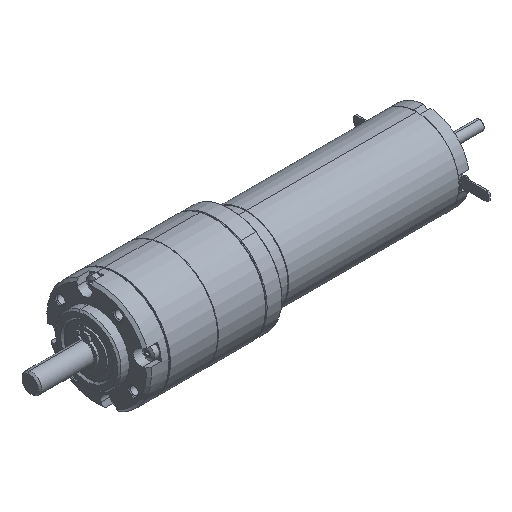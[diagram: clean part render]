
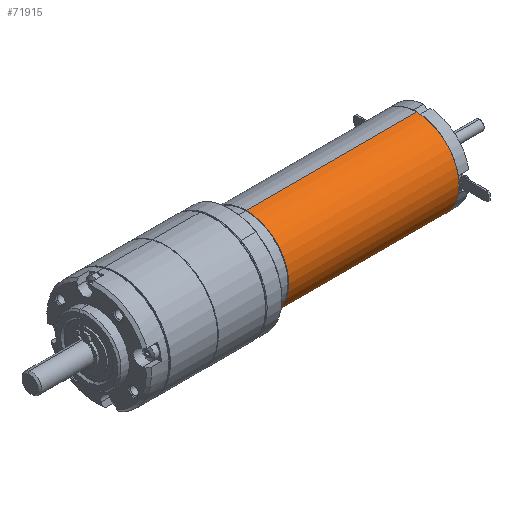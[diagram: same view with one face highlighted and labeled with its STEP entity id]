
A CAD part, isometric view. The second image highlights one B-rep face of the part: STEP entity #71915.
In plain terms, the highlighted cylindrical face has radius 13 mm (diameter 26 mm), a partial arc.
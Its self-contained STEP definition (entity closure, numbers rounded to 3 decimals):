
#758 = EDGE_CURVE ( 'NONE', #63271, #17784, #80539, .T. ) ;
#1488 = VECTOR ( 'NONE', #10704, 1000. ) ;
#10704 = DIRECTION ( 'NONE',  ( -1., 0., 0. ) ) ;
#12303 = DIRECTION ( 'NONE',  ( -1., 0., 0. ) ) ;
#17784 = VERTEX_POINT ( 'NONE', #42959 ) ;
#19700 = EDGE_CURVE ( 'NONE', #90106, #63271, #53032, .T. ) ;
#27047 = CARTESIAN_POINT ( 'NONE',  ( 57., 0., 13. ) ) ;
#28485 = AXIS2_PLACEMENT_3D ( 'NONE', #31987, #81810, #39140 ) ;
#31987 = CARTESIAN_POINT ( 'NONE',  ( 4.8, 0., 0. ) ) ;
#33722 = CARTESIAN_POINT ( 'NONE',  ( 30.9, 0., 13. ) ) ;
#34422 = DIRECTION ( 'NONE',  ( -1., 0., 0. ) ) ;
#35339 = ORIENTED_EDGE ( 'NONE', *, *, #51964, .T. ) ;
#38609 = FACE_OUTER_BOUND ( 'NONE', #55339, .T. ) ;
#39140 = DIRECTION ( 'NONE',  ( 0., 0., 1. ) ) ;
#42959 = CARTESIAN_POINT ( 'NONE',  ( 4.8, 0., -13. ) ) ;
#46109 = ORIENTED_EDGE ( 'NONE', *, *, #19700, .T. ) ;
#48823 = EDGE_CURVE ( 'NONE', #54722, #17784, #77273, .T. ) ;
#50787 = VECTOR ( 'NONE', #12303, 1000. ) ;
#51964 = EDGE_CURVE ( 'NONE', #54722, #90106, #71370, .T. ) ;
#53032 = LINE ( 'NONE', #33722, #50787 ) ;
#54128 = ORIENTED_EDGE ( 'NONE', *, *, #758, .T. ) ;
#54722 = VERTEX_POINT ( 'NONE', #75590 ) ;
#55339 = EDGE_LOOP ( 'NONE', ( #81247, #35339, #46109, #54128 ) ) ;
#58029 = AXIS2_PLACEMENT_3D ( 'NONE', #77123, #34422, #84272 ) ;
#60263 = DIRECTION ( 'NONE',  ( 0., 0., 1. ) ) ;
#63271 = VERTEX_POINT ( 'NONE', #68644 ) ;
#68644 = CARTESIAN_POINT ( 'NONE',  ( 4.8, 0., 13. ) ) ;
#71370 = CIRCLE ( 'NONE', #58029, 13. ) ;
#71915 = ADVANCED_FACE ( 'NONE', ( #38609 ), #86528, .T. ) ;
#74257 = CARTESIAN_POINT ( 'NONE',  ( 30.9, 0., 0. ) ) ;
#74484 = CARTESIAN_POINT ( 'NONE',  ( 30.9, 0., -13. ) ) ;
#75590 = CARTESIAN_POINT ( 'NONE',  ( 57., 0., -13. ) ) ;
#77123 = CARTESIAN_POINT ( 'NONE',  ( 57., 0., 0. ) ) ;
#77273 = LINE ( 'NONE', #74484, #1488 ) ;
#80539 = CIRCLE ( 'NONE', #28485, 13. ) ;
#81247 = ORIENTED_EDGE ( 'NONE', *, *, #48823, .F. ) ;
#81810 = DIRECTION ( 'NONE',  ( 1., 0., 0. ) ) ;
#84272 = DIRECTION ( 'NONE',  ( 0., 0., 1. ) ) ;
#86528 = CYLINDRICAL_SURFACE ( 'NONE', #87345, 13. ) ;
#87345 = AXIS2_PLACEMENT_3D ( 'NONE', #74257, #88314, #60263 ) ;
#88314 = DIRECTION ( 'NONE',  ( -1., 0., 0. ) ) ;
#90106 = VERTEX_POINT ( 'NONE', #27047 ) ;
